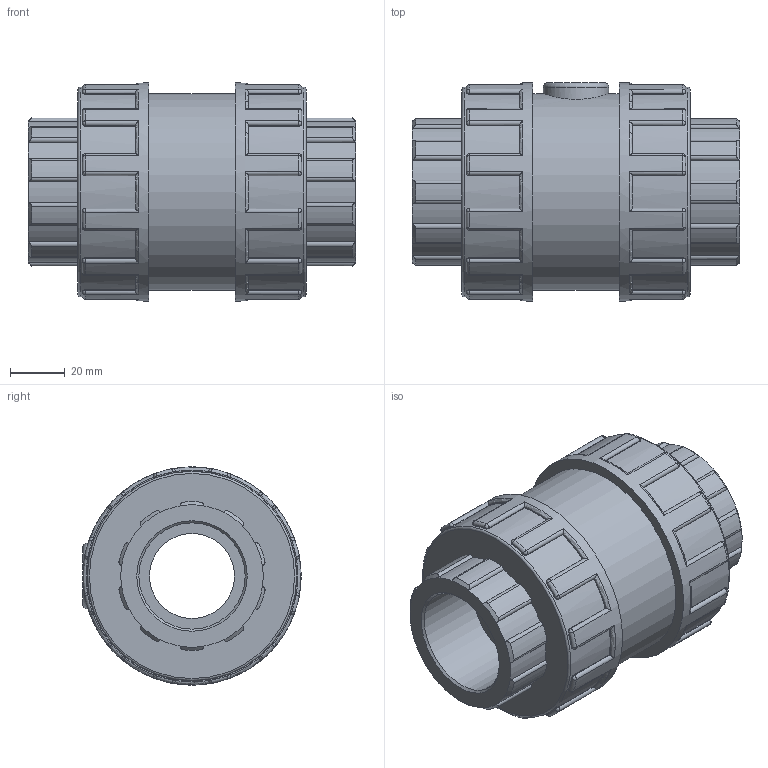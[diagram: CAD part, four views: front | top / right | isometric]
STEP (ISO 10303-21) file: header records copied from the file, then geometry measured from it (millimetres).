
FILE_DESCRIPTION(/* description */ ('PLASSON CHECK VALVE THR 1 1/4" PTFE COATED SPRING + EPDM O-RING'),/* implementation_level */ '2;1');
FILE_NAME(/* name */ 'C:\Dropbox\KIMPROJECTS-Inventor\99-16-3568-Processing\PVC Catalog 2017\110810 - 110610 110910 - 110010\11081018.ipt.stp',/* time_stamp */ '2017-12-07T16:08:12+02:00',/* author */ ('KIM'),/* organization */ (''),/* preprocessor_version */ 'ST-DEVELOPER v15.6',/* originating_system */ 'Autodesk Inventor 2015',/* authorisation */ '');
FILE_SCHEMA (('AUTOMOTIVE_DESIGN { 1 0 10303 214 3 1 1 }'));
Length unit declared in the file: millimetre
Products named in the file (1): 11081018
Bounding box: 120 x 80 x 80 mm (x, y, z)
Volume: 348502.7 mm3; surface area: 50688.4 mm2
Topology: 1 solids, 1 shells, 411 faces, 1021 edges, 618 vertices
Faces by surface type: cylinder 185, plane 105, torus 51, sphere 48, cone 22
Full cylindrical faces by diameter (mm): 24 x1, 31.162 x1, 38.952 x2, 72 x1, 76.8 x2, 80 x2
Entity records: 13378 total; most frequent: CARTESIAN_POINT 3599, DIRECTION 2180, ORIENTED_EDGE 1998, EDGE_CURVE 999, AXIS2_PLACEMENT_3D 906, VERTEX_POINT 611, CIRCLE 494, EDGE_LOOP 434
